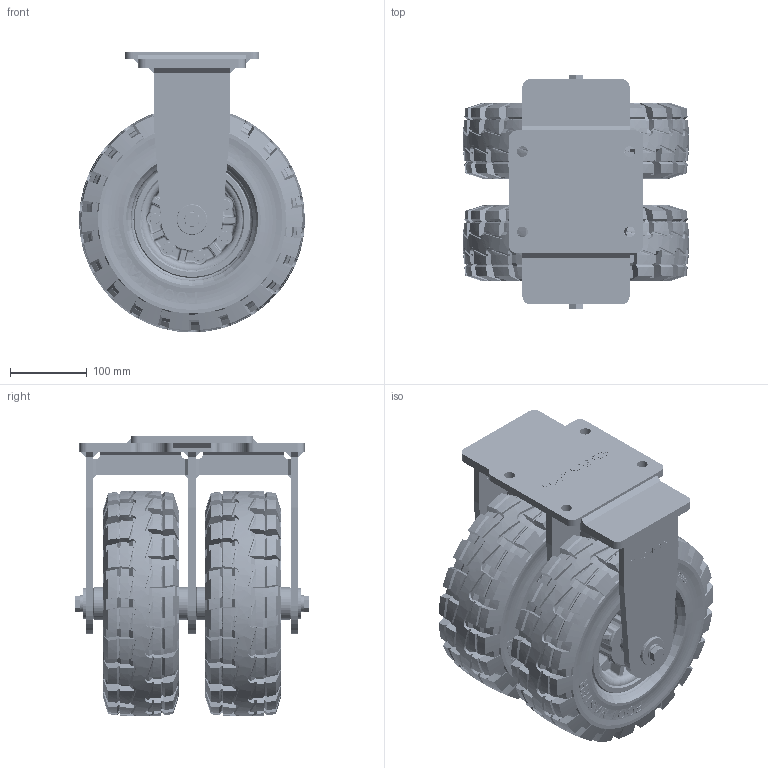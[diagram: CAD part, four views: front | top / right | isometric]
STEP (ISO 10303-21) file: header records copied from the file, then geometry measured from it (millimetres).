
FILE_DESCRIPTION(/* description */ (''),/* implementation_level */ '2;1');
FILE_NAME(/* name */ '\\192.168.10.38\지덕공유\1.기술연구소\2.연구개발 진행중\121.Solidtire caster_2024.11.22\제품설계\홈페이지용 도면\3D\GT-300\7.GTD-300-ARF-TRD.stp',/* time_stamp */ '2025-09-19T10:58:40+09:00',/* author */ ('admin'),/* organization */ (''),/* preprocessor_version */ 'ST-DEVELOPER v18.1',/* originating_system */ 'Autodesk Inventor 2021',/* authorisation */ '');
FILE_SCHEMA (('AUTOMOTIVE_DESIGN { 1 0 10303 214 3 1 1 }'));
Products named in the file (1): 7.GTD-300-ARF-TIRE-Rev01_2025.09.18_Shrinkwrap_1
Bounding box: 294.93 x 307 x 366.96 mm (x, y, z)
Volume: 12642271.8 mm3; surface area: 893002.3 mm2
Topology: 1 solids, 2 shells, 7144 faces, 19252 edges, 12289 vertices
Faces by surface type: bspline 3345, plane 2161, cone 1025, torus 400, cylinder 213
Full cylindrical faces by diameter (mm): 8 x14, 12.5 x14, 14 x4, 17 x14, 29.9 x1, 30.3 x1, 40 x2, 42.7 x4, 160 x4
Entity records: 289030 total; most frequent: CARTESIAN_POINT 131289, ORIENTED_EDGE 38280, DIRECTION 20407, EDGE_CURVE 19140, VERTEX_POINT 12289, B_SPLINE_CURVE_WITH_KNOTS 9338, EDGE_LOOP 7467, AXIS2_PLACEMENT_3D 7335
